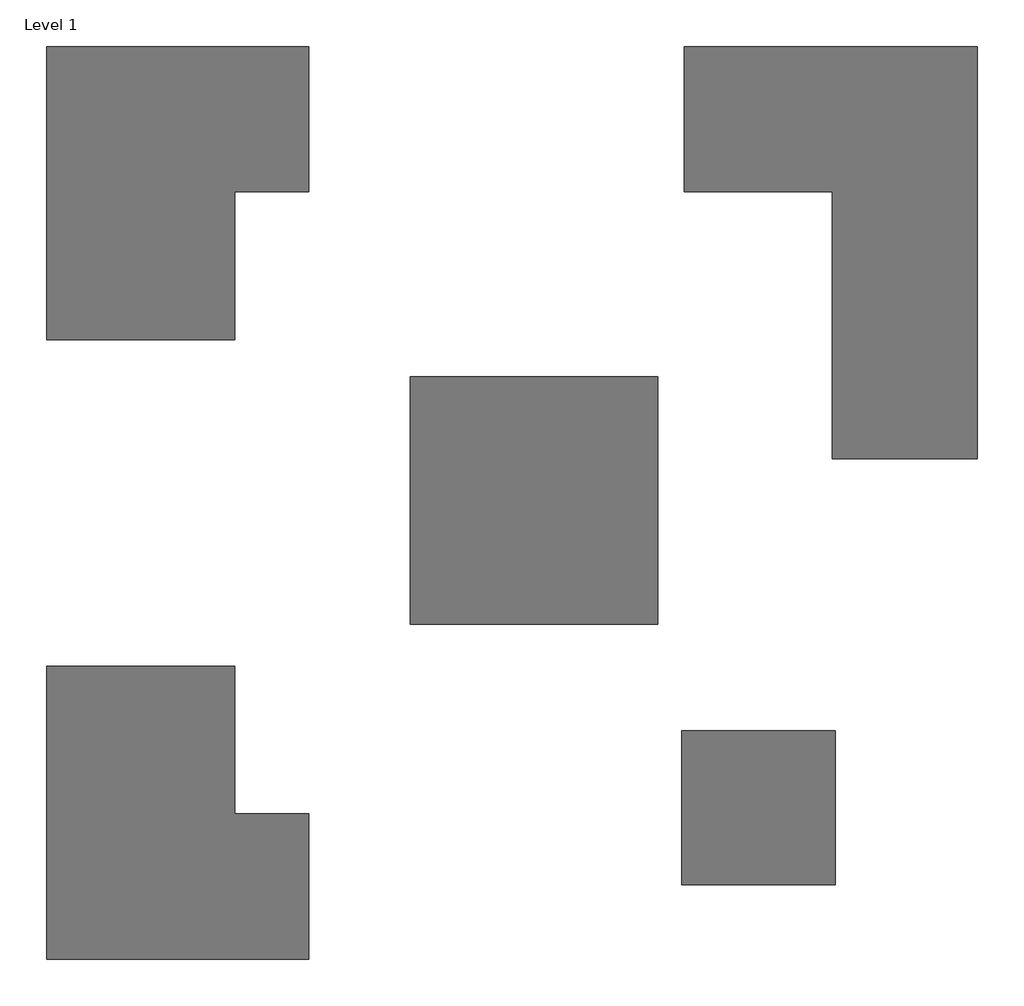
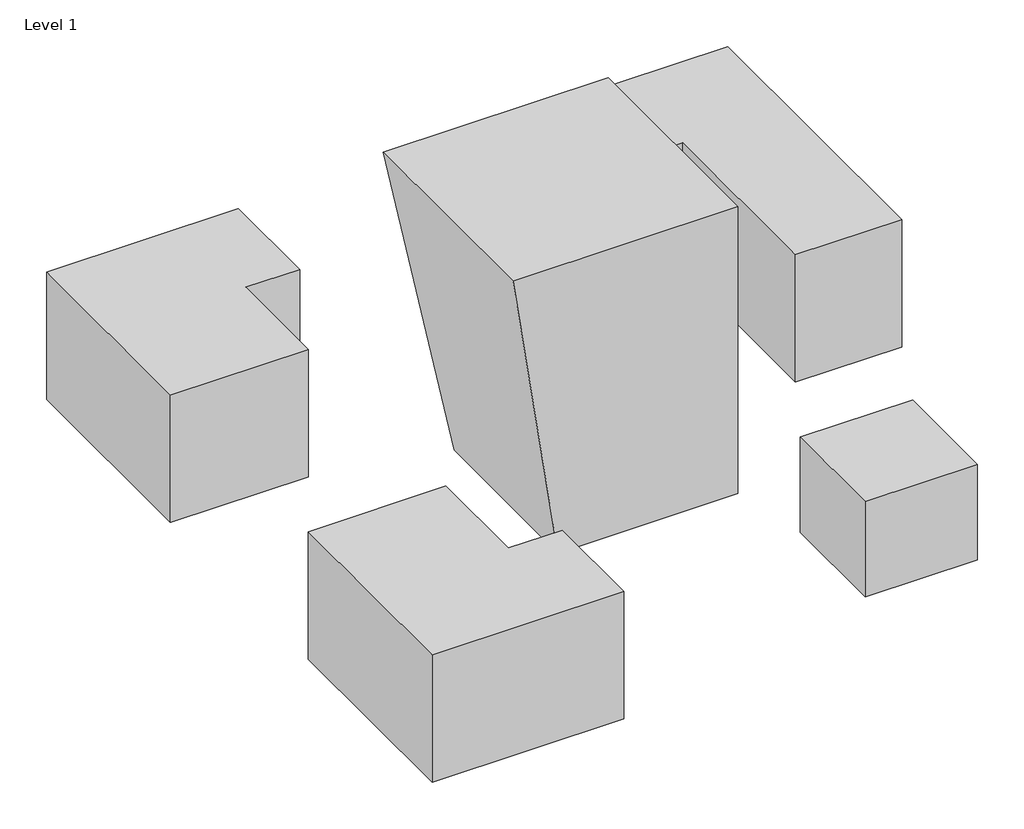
# One storey: 5 proxies.
"""IFC4 building model written with IfcOpenShell, lengths in millimetres."""

from ifc_helpers import new_model, si_unit, origin, origin_with_axes, place, context, project, spatial, polyline, outline, extrude, faceted_brep, element, save

model = new_model("IFC4")

# Units and contexts
model_context = context("Model", 3, world=origin())
ifc_project = project(units=[si_unit("LENGTHUNIT", "METRE", prefix="MILLI")], contexts=[model_context])

# Site, building, storey
site = spatial("IfcSite", under=ifc_project)
building = spatial("IfcBuilding", under=site)
storey = spatial("IfcBuildingStorey", under=building, Name="Level 1", Elevation=0.0)

# Proxies
placement = place(None, origin())
element("IfcBuildingElementProxy", 1, Name="Mass 1 : Mass 1", ObjectType="Mass 1 : Mass 1", at=placement, inside=storey, context=model_context, shape_type="Brep", body=[
    faceted_brep([(-15866.2026957, -12561.3708988, 0.0), (8517.7973043, -12561.3708988, 0.0), (8517.7973043, -12561.3708988, 41148.0), (-21962.2026957, -12561.3708988, 41148.0), (8517.7973043, 11822.6291012, 0.0), (8517.7973043, 17918.6291012, 41148.0), (-15866.2026957, 11822.6291012, 0.0), (-21962.2026957, 17918.6291012, 41148.0)], [[[0, 1, 2, 3]], [[1, 4, 5, 2]], [[4, 6, 7, 5]], [[6, 0, 3, 7]], [[3, 2, 5, 7]], [[0, 6, 4, 1]]]),
])
element("IfcBuildingElementProxy", 2, Name="Mass 2 : Mass 2", ObjectType="Mass 2 : Mass 2", at=placement, inside=storey, context=model_context, shape_type="SweptSolid", body=[
    extrude(outline(polyline([(-52122.0864387, 44742.375797), (-26130.5868756, 44742.375797), (-26130.5868756, 30319.5170098), (-33445.7868756, 30319.5170098), (-33445.7868756, 15654.8363905), (-52122.0864387, 15654.8363905), (-52122.0864387, 44742.375797)])), origin_with_axes(), (0.0, 0.0, 1.0), 18288.0),
])
element("IfcBuildingElementProxy", 3, Name="Mass 3 : Mass 3", ObjectType="Mass 3 : Mass 3", at=placement, inside=storey, context=model_context, shape_type="SweptSolid", body=[
    extrude(outline(polyline([(26097.6060663, -23135.2033897), (26097.6060663, -38375.2033897), (10857.6060663, -38375.2033897), (10857.6060663, -23135.2033897), (26097.6060663, -23135.2033897)])), origin_with_axes(), (0.0, 0.0, 1.0), 13716.0),
])
element("IfcBuildingElementProxy", 4, Name="Mass 4 : Mass 2", ObjectType="Mass 4 : Mass 2", at=placement, inside=storey, context=model_context, shape_type="SweptSolid", body=[
    extrude(outline(polyline([(40203.5067859, 44742.375797), (40203.5067859, 3852.1133278), (25780.6479987, 3852.1133278), (25780.6479987, 30319.5170098), (11115.9673794, 30319.5170098), (11115.9673794, 44742.375797), (40203.5067859, 44742.375797)])), origin_with_axes(), (0.0, 0.0, 1.0), 18288.0),
])
element("IfcBuildingElementProxy", 5, Name="Mass 5 : Mass 2", ObjectType="Mass 5 : Mass 2", at=placement, inside=storey, context=model_context, shape_type="SweptSolid", body=[
    extrude(outline(polyline([(-52122.0864387, -45789.4233035), (-52122.0864387, -16701.8838969), (-33445.7868756, -16701.8838969), (-33445.7868756, -31366.5645162), (-26130.5868756, -31366.5645162), (-26130.5868756, -45789.4233035), (-52122.0864387, -45789.4233035)])), origin_with_axes(), (0.0, 0.0, 1.0), 18288.0),
])

save(model, "model.ifc")
